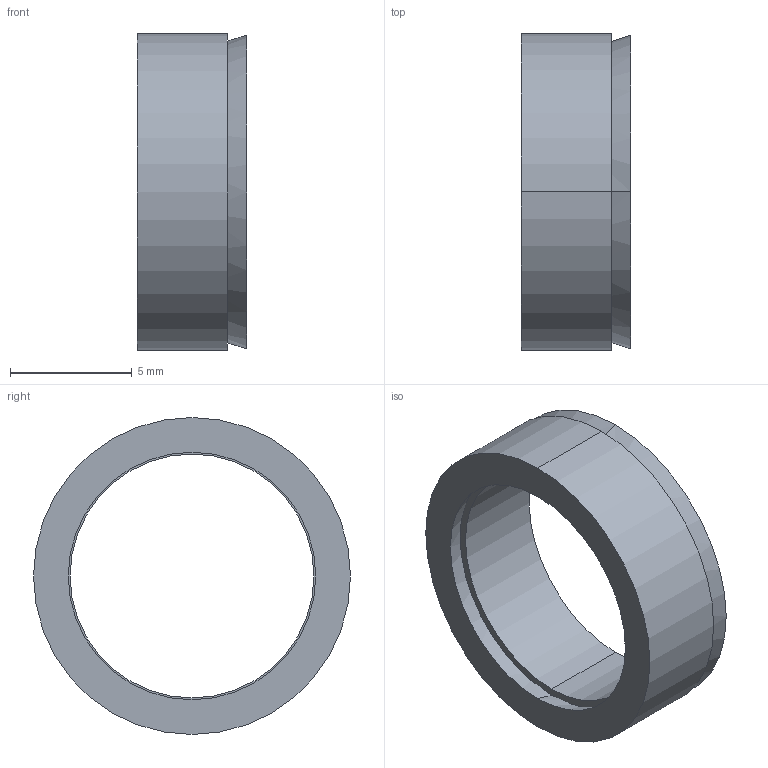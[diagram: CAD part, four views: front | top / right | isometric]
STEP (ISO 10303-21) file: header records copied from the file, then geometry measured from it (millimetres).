
FILE_DESCRIPTION (( 'STEP AP203' ), '1' );
FILE_NAME ('R-10-13.STEP', '2017-11-06T01:28:26', ( 'MYCOM' ), ( '' ), 'SwSTEP 2.0', 'SolidWorks 2015', '' );
FILE_SCHEMA (( 'CONFIG_CONTROL_DESIGN' ));
Length unit declared in the file: millimetre
Products named in the file (1): R-10-13
Bounding box: 4.5 x 13 x 13 mm (x, y, z)
Surface area: 672.2 mm2 (no closed solid volume)
Topology: 0 solids, 2 shells, 12 faces, 24 edges, 16 vertices
Faces by surface type: cylinder 4, cone 4, plane 4
Entity records: 406 total; most frequent: DIRECTION 66, CARTESIAN_POINT 53, ORIENTED_EDGE 48, AXIS2_PLACEMENT_3D 29, EDGE_CURVE 24, VERTEX_POINT 16, EDGE_LOOP 16, CIRCLE 16
